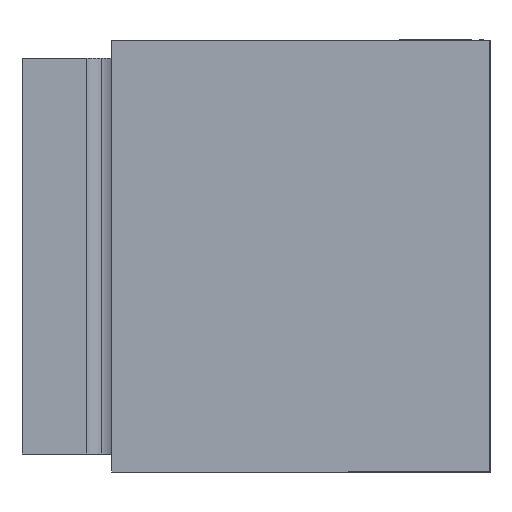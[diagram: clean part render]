
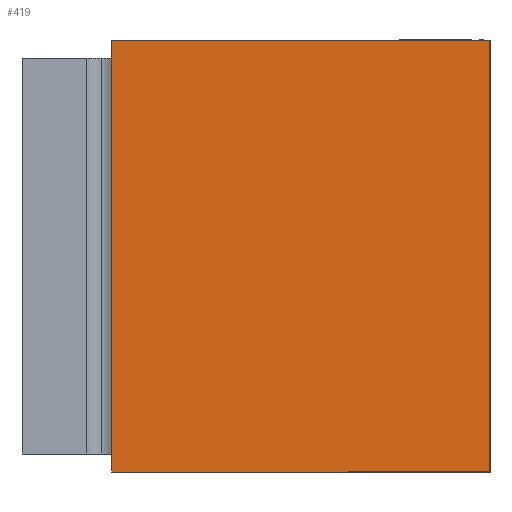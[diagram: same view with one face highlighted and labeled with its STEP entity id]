
A CAD part, left-side view. The second image highlights one B-rep face of the part: STEP entity #419.
In plain terms, the highlighted planar face has unit normal (-1, 0, 0).
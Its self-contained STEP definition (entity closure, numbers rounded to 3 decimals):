
#17 = CARTESIAN_POINT ( 'NONE',  ( -225., 105., 60. ) ) ;
#298 = CARTESIAN_POINT ( 'NONE',  ( -225., 0., 60. ) ) ;
#419 = ADVANCED_FACE ( 'NONE', ( #578 ), #3944, .T. ) ;
#438 = VERTEX_POINT ( 'NONE', #3407 ) ;
#552 = ORIENTED_EDGE ( 'NONE', *, *, #7351, .F. ) ;
#578 = FACE_OUTER_BOUND ( 'NONE', #4305, .T. ) ;
#1052 = EDGE_CURVE ( 'NONE', #1758, #4914, #4089, .T. ) ;
#1109 = CARTESIAN_POINT ( 'NONE',  ( -225., 105., 60. ) ) ;
#1143 = DIRECTION ( 'NONE',  ( 0., -1., 0. ) ) ;
#1716 = DIRECTION ( 'NONE',  ( 0., 0., 1. ) ) ;
#1758 = VERTEX_POINT ( 'NONE', #1109 ) ;
#2177 = CARTESIAN_POINT ( 'NONE',  ( -225., 0., 60. ) ) ;
#2211 = VECTOR ( 'NONE', #1143, 1000. ) ;
#2247 = DIRECTION ( 'NONE',  ( 0., 0., -1. ) ) ;
#3287 = ORIENTED_EDGE ( 'NONE', *, *, #1052, .F. ) ;
#3407 = CARTESIAN_POINT ( 'NONE',  ( -225., 0., -60. ) ) ;
#3804 = VECTOR ( 'NONE', #4490, 1000. ) ;
#3890 = VECTOR ( 'NONE', #2247, 1000. ) ;
#3944 = PLANE ( 'NONE',  #6237 ) ;
#3955 = LINE ( 'NONE', #17, #3890 ) ;
#4089 = LINE ( 'NONE', #6942, #4730 ) ;
#4208 = EDGE_CURVE ( 'NONE', #1758, #6548, #3955, .T. ) ;
#4305 = EDGE_LOOP ( 'NONE', ( #3287, #6596, #5437, #552 ) ) ;
#4490 = DIRECTION ( 'NONE',  ( 0., 0., -1. ) ) ;
#4624 = EDGE_CURVE ( 'NONE', #6548, #438, #7142, .T. ) ;
#4730 = VECTOR ( 'NONE', #5226, 1000. ) ;
#4914 = VERTEX_POINT ( 'NONE', #298 ) ;
#5161 = CARTESIAN_POINT ( 'NONE',  ( -225., 130., 60. ) ) ;
#5226 = DIRECTION ( 'NONE',  ( 0., -1., 0. ) ) ;
#5437 = ORIENTED_EDGE ( 'NONE', *, *, #4624, .T. ) ;
#5620 = CARTESIAN_POINT ( 'NONE',  ( -225., 130., -60. ) ) ;
#5784 = LINE ( 'NONE', #2177, #3804 ) ;
#6071 = CARTESIAN_POINT ( 'NONE',  ( -225., 105., -60. ) ) ;
#6237 = AXIS2_PLACEMENT_3D ( 'NONE', #5161, #6329, #1716 ) ;
#6329 = DIRECTION ( 'NONE',  ( -1., 0., 0. ) ) ;
#6548 = VERTEX_POINT ( 'NONE', #6071 ) ;
#6596 = ORIENTED_EDGE ( 'NONE', *, *, #4208, .T. ) ;
#6942 = CARTESIAN_POINT ( 'NONE',  ( -225., 130., 60. ) ) ;
#7142 = LINE ( 'NONE', #5620, #2211 ) ;
#7351 = EDGE_CURVE ( 'NONE', #4914, #438, #5784, .T. ) ;
